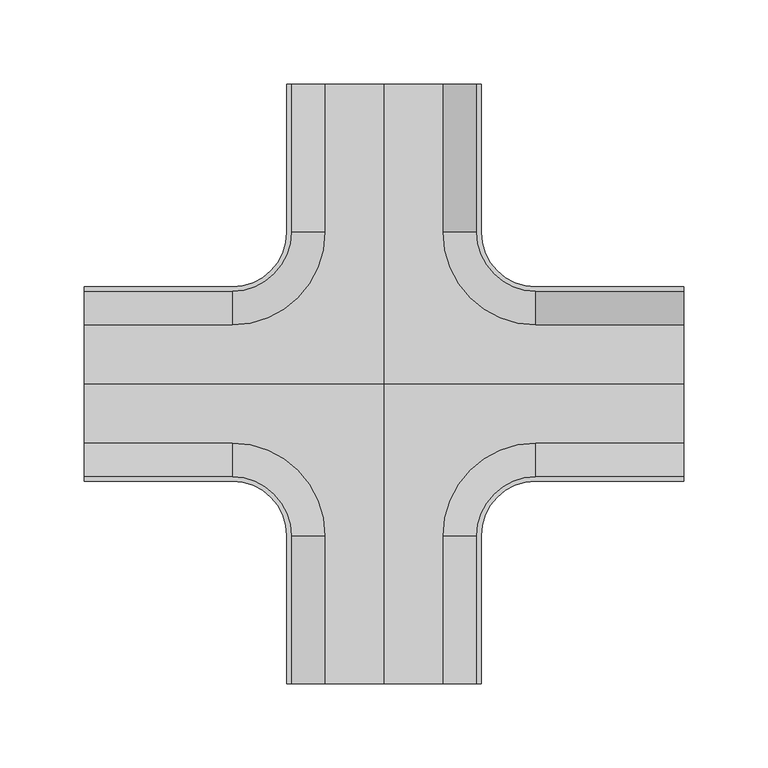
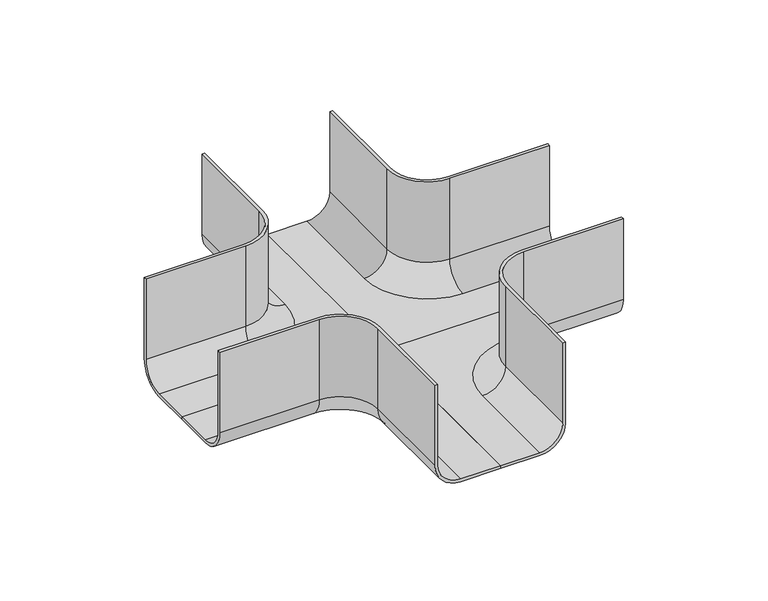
"""IFC4 building model written with IfcOpenShell, lengths in millimetres: cable carrier fitting geometry, CCT_Hyperline_FBTR-CRS_Ответвитель крестообразный пластиковый : Ответвитель крестообразный пластиковый."""

from ifc_helpers import new_model, si_unit, point, frame, origin, place, context, project, spatial, polyline, circle_curve, ellipse_curve, trimmed, source, transform, mapped, element, save
from ifc_brep_helpers import plane_surface, cylinder_surface, revolved_surface, advanced_brep


def cable_carrier_fitting_b2320f43(model_context):
    return source(origin(), model_context, "Body", "AdvancedBrep", [
        advanced_brep(
        [(-177.5, -57.54, -25.0), (-177.5, -57.54, 50.0), (-177.5, -55.0, 50.0), (-177.5, -55.0, -25.0), (-177.5, -35.0, -45.0), (-177.5, 0.0, -45.0), (-177.5, 0.0, -47.54), (-177.5, -35.0, -47.54), (-90.0, -35.0, -47.54), (-90.0, -57.54, -25.0), (-90.0, -55.0, -25.0), (-90.0, -35.0, -45.0), (-90.0, -55.0, 50.0), (-90.0, -57.54, 50.0), (-57.54, -90.0, 50.0), (-57.54, -177.5, 50.0), (-55.0, -177.5, 50.0), (-55.0, -90.0, 50.0), (-35.0, -90.0, -47.54), (-57.54, -90.0, -25.0), (-55.0, -90.0, -25.0), (-35.0, -90.0, -45.0), (0.0, -177.5, -47.54), (0.0, -177.5, -45.0), (-35.0, -177.5, -45.0), (-55.0, -177.5, -25.0), (-57.54, -177.5, -25.0), (-35.0, -177.5, -47.54), (0.0, 0.0, -45.0), (0.0, 0.0, -47.54)],
        [
            (0, 1),
            (1, 2),
            (2, 3),
            (3, 4, circle_curve(frame((-177.5, -35.0, -25.0), z_axis=(1.0, 0.0, 0.0), x_axis=(0.0, -1.0, 0.0)), 20.0)),
            (4, 5),
            (5, 6),
            (6, 7),
            (7, 0, circle_curve(frame((-177.5, -35.0, -25.0), z_axis=(-1.0, 0.0, 0.0), x_axis=(0.0, -1.0, 0.0)), 22.54)),
            (7, 8),
            (8, 9, circle_curve(frame((-90.0, -35.0, -25.0), z_axis=(-1.0, 0.0, 0.0), x_axis=(0.0, -1.0, 0.0)), 22.54)),
            (9, 0),
            (3, 10),
            (10, 11, circle_curve(frame((-90.0, -35.0, -25.0), z_axis=(1.0, 0.0, 0.0), x_axis=(0.0, -1.0, 0.0)), 20.0)),
            (11, 4),
            (2, 12),
            (12, 10),
            (1, 13),
            (13, 14, circle_curve(frame((-90.0, -90.0, 50.0), z_axis=(0.0, 0.0, -1.0), x_axis=(0.0, 1.0, 0.0)), 32.46)),
            (14, 15),
            (15, 16),
            (16, 17),
            (17, 12, circle_curve(frame((-90.0, -90.0, 50.0), z_axis=(0.0, 0.0, 1.0), x_axis=(0.0, 1.0, 0.0)), 35.0)),
            (9, 13),
            (8, 18, circle_curve(frame((-90.0, -90.0, -47.54), z_axis=(0.0, 0.0, -1.0), x_axis=(0.0, 1.0, 0.0)), 55.0)),
            (18, 19, circle_curve(frame((-35.0, -90.0, -25.0), z_axis=(0.0, 1.0, 0.0), x_axis=(-1.0, 0.0, 0.0)), 22.54)),
            (19, 9, circle_curve(frame((-90.0, -90.0, -25.0), z_axis=(0.0, 0.0, 1.0), x_axis=(0.0, 1.0, 0.0)), 32.46)),
            (10, 20, circle_curve(frame((-90.0, -90.0, -25.0), z_axis=(0.0, 0.0, -1.0), x_axis=(0.0, 1.0, 0.0)), 35.0)),
            (20, 21, circle_curve(frame((-35.0, -90.0, -25.0), z_axis=(0.0, -1.0, 0.0), x_axis=(-1.0, 0.0, 0.0)), 20.0)),
            (21, 11, circle_curve(frame((-90.0, -90.0, -45.0), z_axis=(0.0, 0.0, 1.0), x_axis=(0.0, 1.0, 0.0)), 55.0)),
            (17, 20),
            (19, 14),
            (22, 23),
            (23, 24),
            (24, 25, circle_curve(frame((-35.0, -177.5, -25.0), z_axis=(0.0, 1.0, 0.0), x_axis=(-1.0, 0.0, 0.0)), 20.0)),
            (25, 16),
            (15, 26),
            (26, 27, circle_curve(frame((-35.0, -177.5, -25.0), z_axis=(0.0, -1.0, 0.0), x_axis=(-1.0, 0.0, 0.0)), 22.54)),
            (27, 22),
            (26, 19),
            (18, 27),
            (20, 25),
            (24, 21),
            (23, 28),
            (28, 5),
            (6, 29),
            (29, 22),
            (28, 29),
        ],
        [
            plane_surface(frame((-177.5, -55.0, 0.0), z_axis=(-1.0, 0.0, 0.0), x_axis=(0.0, 0.0, 1.0))),
            cylinder_surface(frame((-177.5, -35.0, -25.0), z_axis=(-1.0, 0.0, 0.0), x_axis=(0.0, -1.0, 0.0)), 22.54),
            revolved_surface(polyline([(-90.0, -55.0, -25.0), (-177.5, -55.0, -25.0)]), (-177.5, -35.0, -25.0), (1.0, 0.0, 0.0)),
            plane_surface(frame((-177.5, -55.0, -25.0), z_axis=(0.0, 1.0, 0.0), x_axis=(1.0, 0.0, 0.0))),
            plane_surface(frame((-177.5, -55.0, 50.0), z_axis=(0.0, 0.0, 1.0), x_axis=(1.0, 0.0, 0.0))),
            plane_surface(frame((-177.5, -57.54, 50.0), z_axis=(0.0, -1.0, 0.0), x_axis=(1.0, 0.0, 0.0))),
            revolved_surface(trimmed(ellipse_curve(frame((-90.0, -35.0, -25.0), z_axis=(1.0, 0.0, 0.0), x_axis=(0.0, -1.0, 0.0)), 22.54, 22.54), [point((-90.0, -57.54, -25.0))], [point((-90.0, -35.0, -47.54))], True, "CARTESIAN"), (-90.0, -90.0, 0.0), (0.0, 0.0, 1.0)),
            revolved_surface(trimmed(ellipse_curve(frame((-90.0, -35.0, -25.0), z_axis=(-1.0, 0.0, 0.0), x_axis=(0.0, -1.0, 0.0)), 20.0, 20.0), [point((-90.0, -35.0, -45.0))], [point((-90.0, -55.0, -25.0))], True, "CARTESIAN"), (-90.0, -90.0, 0.0), (0.0, 0.0, 1.0)),
            cylinder_surface(frame((-90.0, -90.0, 0.0), z_axis=(0.0, 0.0, 1.0), x_axis=(0.0, 1.0, 0.0)), 35.0),
            revolved_surface(polyline([(-90.0, -57.54, 50.0), (-90.0, -57.54, -25.0)]), (-90.0, -90.0, 0.0), (0.0, 0.0, 1.0)),
            plane_surface(frame((-55.0, -177.5, 0.0), z_axis=(0.0, -1.0, 0.0), x_axis=(0.0, 0.0, 1.0))),
            cylinder_surface(frame((-35.0, -90.0, -25.0), z_axis=(0.0, 1.0, 0.0), x_axis=(-1.0, 0.0, 0.0)), 22.54),
            revolved_surface(polyline([(-55.0, -177.5, -25.0), (-55.0, -90.0, -25.0)]), (-35.0, -90.0, -25.0), (0.0, -1.0, 0.0)),
            plane_surface(frame((-55.0, -90.0, -25.0), z_axis=(1.0, 0.0, 0.0), x_axis=(0.0, -1.0, 0.0))),
            plane_surface(frame((-57.54, -90.0, 50.0), z_axis=(-1.0, 0.0, 0.0), x_axis=(0.0, -1.0, 0.0))),
            plane_surface(frame((0.0, -90.0, -45.0), z_axis=(0.0, 0.0, 1.0), x_axis=(0.0, 1.0, 0.0))),
            plane_surface(frame((0.0, -90.0, -47.54), z_axis=(0.0, 0.0, -1.0), x_axis=(0.0, -1.0, 0.0))),
            plane_surface(frame((-90.0, 0.0, -45.0), z_axis=(0.0, 1.0, 0.0), x_axis=(0.0, 0.0, -1.0))),
            plane_surface(frame((0.0, 0.0, -45.0), z_axis=(1.0, 0.0, 0.0), x_axis=(0.0, 0.0, -1.0))),
        ],
        [
            (0, [[1, 2, 3, 4, 5, 6, 7, 8]]),
            (1, [[9, 10, 11, -8]]),
            (2, [[12, 13, 14, -4]]),
            (3, [[15, 16, -12, -3]]),
            (4, [[17, 18, 19, 20, 21, 22, -15, -2]]),
            (5, [[-11, 23, -17, -1]]),
            (6, [[24, 25, 26, -10]]),
            (7, [[-13, 27, 28, 29]]),
            (8, [[-22, 30, -27, -16]]),
            (9, [[-23, -26, 31, -18]]),
            (10, [[32, 33, 34, 35, -20, 36, 37, 38]]),
            (11, [[-37, 39, -25, 40]]),
            (12, [[-28, 41, -34, 42]]),
            (13, [[-35, -41, -30, -21]]),
            (14, [[-31, -39, -36, -19]]),
            (15, [[43, 44, -5, -14, -29, -42, -33]]),
            (16, [[45, 46, -38, -40, -24, -9, -7]]),
            (17, [[47, -45, -6, -44]]),
            (18, [[-32, -46, -47, -43]]),
        ],
    ),
        advanced_brep(
        [(177.5, -57.54, -25.0), (177.5, -35.0, -47.54), (177.5, 0.0, -47.54), (177.5, 0.0, -45.0), (177.5, -35.0, -45.0), (177.5, -55.0, -25.0), (177.5, -55.0, 50.0), (177.5, -57.54, 50.0), (90.0, -57.54, -25.0), (90.0, -35.0, -47.54), (90.0, -35.0, -45.0), (90.0, -55.0, -25.0), (90.0, -55.0, 50.0), (55.0, -90.0, 50.0), (55.0, -177.5, 50.0), (57.54, -177.5, 50.0), (57.54, -90.0, 50.0), (90.0, -57.54, 50.0), (57.54, -90.0, -25.0), (35.0, -90.0, -47.54), (35.0, -90.0, -45.0), (55.0, -90.0, -25.0), (0.0, -177.5, -47.54), (35.0, -177.5, -47.54), (57.54, -177.5, -25.0), (55.0, -177.5, -25.0), (35.0, -177.5, -45.0), (0.0, -177.5, -45.0), (0.0, 0.0, -45.0), (0.0, 0.0, -47.54)],
        [
            (0, 1, circle_curve(frame((177.5, -35.0, -25.0), z_axis=(1.0, 0.0, 0.0), x_axis=(0.0, -1.0, 0.0)), 22.54)),
            (1, 2),
            (2, 3),
            (3, 4),
            (4, 5, circle_curve(frame((177.5, -35.0, -25.0), z_axis=(-1.0, 0.0, 0.0), x_axis=(0.0, -1.0, 0.0)), 20.0)),
            (5, 6),
            (6, 7),
            (7, 0),
            (0, 8),
            (8, 9, circle_curve(frame((90.0, -35.0, -25.0), z_axis=(1.0, 0.0, 0.0), x_axis=(0.0, -1.0, 0.0)), 22.54)),
            (9, 1),
            (4, 10),
            (10, 11, circle_curve(frame((90.0, -35.0, -25.0), z_axis=(-1.0, 0.0, 0.0), x_axis=(0.0, -1.0, 0.0)), 20.0)),
            (11, 5),
            (11, 12),
            (12, 6),
            (12, 13, circle_curve(frame((90.0, -90.0, 50.0), z_axis=(0.0, 0.0, 1.0), x_axis=(0.0, 1.0, 0.0)), 35.0)),
            (13, 14),
            (14, 15),
            (15, 16),
            (16, 17, circle_curve(frame((90.0, -90.0, 50.0), z_axis=(0.0, 0.0, -1.0), x_axis=(0.0, 1.0, 0.0)), 32.46)),
            (17, 7),
            (17, 8),
            (8, 18, circle_curve(frame((90.0, -90.0, -25.0), z_axis=(0.0, 0.0, 1.0), x_axis=(0.0, 1.0, 0.0)), 32.46)),
            (18, 19, circle_curve(frame((35.0, -90.0, -25.0), z_axis=(0.0, 1.0, 0.0), x_axis=(1.0, 0.0, 0.0)), 22.54)),
            (19, 9, circle_curve(frame((90.0, -90.0, -47.54), z_axis=(0.0, 0.0, -1.0), x_axis=(0.0, 1.0, 0.0)), 55.0)),
            (10, 20, circle_curve(frame((90.0, -90.0, -45.0), z_axis=(0.0, 0.0, 1.0), x_axis=(0.0, 1.0, 0.0)), 55.0)),
            (20, 21, circle_curve(frame((35.0, -90.0, -25.0), z_axis=(0.0, -1.0, 0.0), x_axis=(1.0, 0.0, 0.0)), 20.0)),
            (21, 11, circle_curve(frame((90.0, -90.0, -25.0), z_axis=(0.0, 0.0, -1.0), x_axis=(0.0, 1.0, 0.0)), 35.0)),
            (21, 13),
            (16, 18),
            (22, 23),
            (23, 24, circle_curve(frame((35.0, -177.5, -25.0), z_axis=(0.0, -1.0, 0.0), x_axis=(1.0, 0.0, 0.0)), 22.54)),
            (24, 15),
            (14, 25),
            (25, 26, circle_curve(frame((35.0, -177.5, -25.0), z_axis=(0.0, 1.0, 0.0), x_axis=(1.0, 0.0, 0.0)), 20.0)),
            (26, 27),
            (27, 22),
            (23, 19),
            (18, 24),
            (20, 26),
            (25, 21),
            (3, 28),
            (28, 27),
            (22, 29),
            (29, 2),
            (29, 28),
        ],
        [
            plane_surface(frame((177.5, -55.0, 0.0), z_axis=(1.0, 0.0, 0.0), x_axis=(0.0, 0.0, 1.0))),
            cylinder_surface(frame((177.5, -35.0, -25.0), z_axis=(1.0, 0.0, 0.0), x_axis=(0.0, -1.0, 0.0)), 22.54),
            revolved_surface(polyline([(90.0, -55.0, -25.0), (177.5, -55.0, -25.0)]), (177.5, -35.0, -25.0), (-1.0, 0.0, 0.0)),
            plane_surface(frame((177.5, -55.0, -25.0), z_axis=(0.0, 1.0, 0.0), x_axis=(-1.0, 0.0, 0.0))),
            plane_surface(frame((177.5, -55.0, 50.0), z_axis=(0.0, 0.0, 1.0), x_axis=(-1.0, 0.0, 0.0))),
            plane_surface(frame((177.5, -57.54, 50.0), z_axis=(0.0, -1.0, 0.0), x_axis=(-1.0, 0.0, 0.0))),
            revolved_surface(trimmed(ellipse_curve(frame((90.0, -35.0, -25.0), z_axis=(1.0, 0.0, 0.0), x_axis=(0.0, -1.0, 0.0)), 22.54, 22.54), [point((90.0, -57.54, -25.0))], [point((90.0, -35.0, -47.54))], True, "CARTESIAN"), (90.0, -90.0, 0.0), (0.0, 0.0, 1.0)),
            revolved_surface(trimmed(ellipse_curve(frame((90.0, -35.0, -25.0), z_axis=(-1.0, 0.0, 0.0), x_axis=(0.0, -1.0, 0.0)), 20.0, 20.0), [point((90.0, -35.0, -45.0))], [point((90.0, -55.0, -25.0))], True, "CARTESIAN"), (90.0, -90.0, 0.0), (0.0, 0.0, 1.0)),
            cylinder_surface(frame((90.0, -90.0, 0.0), z_axis=(0.0, 0.0, 1.0), x_axis=(0.0, 1.0, 0.0)), 35.0),
            revolved_surface(polyline([(90.0, -57.54, 50.0), (90.0, -57.54, -25.0)]), (90.0, -90.0, 0.0), (0.0, 0.0, 1.0)),
            plane_surface(frame((55.0, -177.5, 0.0), z_axis=(0.0, -1.0, 0.0), x_axis=(0.0, 0.0, 1.0))),
            cylinder_surface(frame((35.0, -90.0, -25.0), z_axis=(0.0, 1.0, 0.0), x_axis=(1.0, 0.0, 0.0)), 22.54),
            revolved_surface(polyline([(55.0, -177.5, -25.0), (55.0, -90.0, -25.0)]), (35.0, -90.0, -25.0), (0.0, -1.0, 0.0)),
            plane_surface(frame((55.0, -90.0, -25.0), z_axis=(-1.0, 0.0, 0.0), x_axis=(0.0, -1.0, 0.0))),
            plane_surface(frame((57.54, -90.0, 50.0), z_axis=(1.0, 0.0, 0.0), x_axis=(0.0, -1.0, 0.0))),
            plane_surface(frame((0.0, -90.0, -45.0), z_axis=(0.0, 0.0, 1.0), x_axis=(0.0, 1.0, 0.0))),
            plane_surface(frame((0.0, -90.0, -47.54), z_axis=(0.0, 0.0, -1.0), x_axis=(0.0, -1.0, 0.0))),
            plane_surface(frame((90.0, 0.0, -45.0), z_axis=(0.0, 1.0, 0.0), x_axis=(0.0, 0.0, -1.0))),
            plane_surface(frame((0.0, 0.0, -45.0), z_axis=(-1.0, 0.0, 0.0), x_axis=(0.0, 0.0, -1.0))),
        ],
        [
            (0, [[1, 2, 3, 4, 5, 6, 7, 8]]),
            (1, [[-1, 9, 10, 11]]),
            (2, [[-5, 12, 13, 14]]),
            (3, [[-6, -14, 15, 16]]),
            (4, [[-7, -16, 17, 18, 19, 20, 21, 22]]),
            (5, [[-8, -22, 23, -9]]),
            (6, [[-10, 24, 25, 26]]),
            (7, [[27, 28, 29, -13]]),
            (8, [[-15, -29, 30, -17]]),
            (9, [[-21, 31, -24, -23]]),
            (10, [[32, 33, 34, -19, 35, 36, 37, 38]]),
            (11, [[39, -25, 40, -33]]),
            (12, [[41, -36, 42, -28]]),
            (13, [[-18, -30, -42, -35]]),
            (14, [[-20, -34, -40, -31]]),
            (15, [[-37, -41, -27, -12, -4, 43, 44]]),
            (16, [[-2, -11, -26, -39, -32, 45, 46]]),
            (17, [[-43, -3, -46, 47]]),
            (18, [[-44, -47, -45, -38]]),
        ],
    ),
        advanced_brep(
        [(-177.5, 57.54, -25.0), (-177.5, 35.0, -47.54), (-177.5, 0.0, -47.54), (-177.5, 0.0, -45.0), (-177.5, 35.0, -45.0), (-177.5, 55.0, -25.0), (-177.5, 55.0, 50.0), (-177.5, 57.54, 50.0), (-90.0, 57.54, -25.0), (-90.0, 35.0, -47.54), (-90.0, 35.0, -45.0), (-90.0, 55.0, -25.0), (-90.0, 55.0, 50.0), (-55.0, 90.0, 50.0), (-55.0, 177.5, 50.0), (-57.54, 177.5, 50.0), (-57.54, 90.0, 50.0), (-90.0, 57.54, 50.0), (-57.54, 90.0, -25.0), (-35.0, 90.0, -47.54), (-35.0, 90.0, -45.0), (-55.0, 90.0, -25.0), (0.0, 177.5, -47.54), (-35.0, 177.5, -47.54), (-57.54, 177.5, -25.0), (-55.0, 177.5, -25.0), (-35.0, 177.5, -45.0), (0.0, 177.5, -45.0), (0.0, 0.0, -45.0), (0.0, 0.0, -47.54)],
        [
            (0, 1, circle_curve(frame((-177.5, 35.0, -25.0), z_axis=(-1.0, 0.0, 0.0), x_axis=(0.0, 1.0, 0.0)), 22.54)),
            (1, 2),
            (2, 3),
            (3, 4),
            (4, 5, circle_curve(frame((-177.5, 35.0, -25.0), z_axis=(1.0, 0.0, 0.0), x_axis=(0.0, 1.0, 0.0)), 20.0)),
            (5, 6),
            (6, 7),
            (7, 0),
            (0, 8),
            (8, 9, circle_curve(frame((-90.0, 35.0, -25.0), z_axis=(-1.0, 0.0, 0.0), x_axis=(0.0, 1.0, 0.0)), 22.54)),
            (9, 1),
            (4, 10),
            (10, 11, circle_curve(frame((-90.0, 35.0, -25.0), z_axis=(1.0, 0.0, 0.0), x_axis=(0.0, 1.0, 0.0)), 20.0)),
            (11, 5),
            (11, 12),
            (12, 6),
            (12, 13, circle_curve(frame((-90.0, 90.0, 50.0), z_axis=(0.0, 0.0, 1.0), x_axis=(0.0, -1.0, 0.0)), 35.0)),
            (13, 14),
            (14, 15),
            (15, 16),
            (16, 17, circle_curve(frame((-90.0, 90.0, 50.0), z_axis=(0.0, 0.0, -1.0), x_axis=(0.0, -1.0, 0.0)), 32.46)),
            (17, 7),
            (17, 8),
            (8, 18, circle_curve(frame((-90.0, 90.0, -25.0), z_axis=(0.0, 0.0, 1.0), x_axis=(0.0, -1.0, 0.0)), 32.46)),
            (18, 19, circle_curve(frame((-35.0, 90.0, -25.0), z_axis=(0.0, -1.0, 0.0), x_axis=(-1.0, 0.0, 0.0)), 22.54)),
            (19, 9, circle_curve(frame((-90.0, 90.0, -47.54), z_axis=(0.0, 0.0, -1.0), x_axis=(0.0, -1.0, 0.0)), 55.0)),
            (10, 20, circle_curve(frame((-90.0, 90.0, -45.0), z_axis=(0.0, 0.0, 1.0), x_axis=(0.0, -1.0, 0.0)), 55.0)),
            (20, 21, circle_curve(frame((-35.0, 90.0, -25.0), z_axis=(0.0, 1.0, 0.0), x_axis=(-1.0, 0.0, 0.0)), 20.0)),
            (21, 11, circle_curve(frame((-90.0, 90.0, -25.0), z_axis=(0.0, 0.0, -1.0), x_axis=(0.0, -1.0, 0.0)), 35.0)),
            (21, 13),
            (16, 18),
            (22, 23),
            (23, 24, circle_curve(frame((-35.0, 177.5, -25.0), z_axis=(0.0, 1.0, 0.0), x_axis=(-1.0, 0.0, 0.0)), 22.54)),
            (24, 15),
            (14, 25),
            (25, 26, circle_curve(frame((-35.0, 177.5, -25.0), z_axis=(0.0, -1.0, 0.0), x_axis=(-1.0, 0.0, 0.0)), 20.0)),
            (26, 27),
            (27, 22),
            (23, 19),
            (18, 24),
            (20, 26),
            (25, 21),
            (3, 28),
            (28, 27),
            (22, 29),
            (29, 2),
            (29, 28),
        ],
        [
            plane_surface(frame((-177.5, 55.0, 0.0), z_axis=(-1.0, 0.0, 0.0), x_axis=(0.0, 0.0, 1.0))),
            cylinder_surface(frame((-177.5, 35.0, -25.0), z_axis=(-1.0, 0.0, 0.0), x_axis=(0.0, 1.0, 0.0)), 22.54),
            revolved_surface(polyline([(-90.0, 55.0, -25.0), (-177.5, 55.0, -25.0)]), (-177.5, 35.0, -25.0), (1.0, 0.0, 0.0)),
            plane_surface(frame((-177.5, 55.0, -25.0), z_axis=(0.0, -1.0, 0.0), x_axis=(1.0, 0.0, 0.0))),
            plane_surface(frame((-177.5, 55.0, 50.0), z_axis=(0.0, 0.0, 1.0), x_axis=(1.0, 0.0, 0.0))),
            plane_surface(frame((-177.5, 57.54, 50.0), z_axis=(0.0, 1.0, 0.0), x_axis=(1.0, 0.0, 0.0))),
            revolved_surface(trimmed(ellipse_curve(frame((-90.0, 35.0, -25.0), z_axis=(-1.0, 0.0, 0.0), x_axis=(0.0, 1.0, 0.0)), 22.54, 22.54), [point((-90.0, 57.54, -25.0))], [point((-90.0, 35.0, -47.54))], True, "CARTESIAN"), (-90.0, 90.0, 0.0), (0.0, 0.0, 1.0)),
            revolved_surface(trimmed(ellipse_curve(frame((-90.0, 35.0, -25.0), z_axis=(1.0, 0.0, 0.0), x_axis=(0.0, 1.0, 0.0)), 20.0, 20.0), [point((-90.0, 35.0, -45.0))], [point((-90.0, 55.0, -25.0))], True, "CARTESIAN"), (-90.0, 90.0, 0.0), (0.0, 0.0, 1.0)),
            cylinder_surface(frame((-90.0, 90.0, 0.0), z_axis=(0.0, 0.0, 1.0), x_axis=(0.0, -1.0, 0.0)), 35.0),
            revolved_surface(polyline([(-90.0, 57.54, 50.0), (-90.0, 57.54, -25.0)]), (-90.0, 90.0, 0.0), (0.0, 0.0, 1.0)),
            plane_surface(frame((-55.0, 177.5, 0.0), z_axis=(0.0, 1.0, 0.0), x_axis=(0.0, 0.0, 1.0))),
            cylinder_surface(frame((-35.0, 90.0, -25.0), z_axis=(0.0, -1.0, 0.0), x_axis=(-1.0, 0.0, 0.0)), 22.54),
            revolved_surface(polyline([(-55.0, 177.5, -25.0), (-55.0, 90.0, -25.0)]), (-35.0, 90.0, -25.0), (0.0, 1.0, 0.0)),
            plane_surface(frame((-55.0, 90.0, -25.0), z_axis=(1.0, 0.0, 0.0), x_axis=(0.0, 1.0, 0.0))),
            plane_surface(frame((-57.54, 90.0, 50.0), z_axis=(-1.0, 0.0, 0.0), x_axis=(0.0, 1.0, 0.0))),
            plane_surface(frame((0.0, 90.0, -45.0), z_axis=(0.0, 0.0, 1.0), x_axis=(0.0, -1.0, 0.0))),
            plane_surface(frame((0.0, 90.0, -47.54), z_axis=(0.0, 0.0, -1.0), x_axis=(0.0, 1.0, 0.0))),
            plane_surface(frame((-90.0, 0.0, -45.0), z_axis=(0.0, -1.0, 0.0), x_axis=(0.0, 0.0, -1.0))),
            plane_surface(frame((0.0, 0.0, -45.0), z_axis=(1.0, 0.0, 0.0), x_axis=(0.0, 0.0, -1.0))),
        ],
        [
            (0, [[1, 2, 3, 4, 5, 6, 7, 8]]),
            (1, [[-1, 9, 10, 11]]),
            (2, [[-5, 12, 13, 14]]),
            (3, [[-6, -14, 15, 16]]),
            (4, [[-7, -16, 17, 18, 19, 20, 21, 22]]),
            (5, [[-8, -22, 23, -9]]),
            (6, [[-10, 24, 25, 26]]),
            (7, [[27, 28, 29, -13]]),
            (8, [[-15, -29, 30, -17]]),
            (9, [[-21, 31, -24, -23]]),
            (10, [[32, 33, 34, -19, 35, 36, 37, 38]]),
            (11, [[39, -25, 40, -33]]),
            (12, [[41, -36, 42, -28]]),
            (13, [[-18, -30, -42, -35]]),
            (14, [[-20, -34, -40, -31]]),
            (15, [[-37, -41, -27, -12, -4, 43, 44]]),
            (16, [[-2, -11, -26, -39, -32, 45, 46]]),
            (17, [[-43, -3, -46, 47]]),
            (18, [[-44, -47, -45, -38]]),
        ],
    ),
        advanced_brep(
        [(177.5, 57.54, -25.0), (177.5, 57.54, 50.0), (177.5, 55.0, 50.0), (177.5, 55.0, -25.0), (177.5, 35.0, -45.0), (177.5, 0.0, -45.0), (177.5, 0.0, -47.54), (177.5, 35.0, -47.54), (90.0, 35.0, -47.54), (90.0, 57.54, -25.0), (90.0, 55.0, -25.0), (90.0, 35.0, -45.0), (90.0, 55.0, 50.0), (90.0, 57.54, 50.0), (57.54, 90.0, 50.0), (57.54, 177.5, 50.0), (55.0, 177.5, 50.0), (55.0, 90.0, 50.0), (35.0, 90.0, -47.54), (57.54, 90.0, -25.0), (55.0, 90.0, -25.0), (35.0, 90.0, -45.0), (0.0, 177.5, -47.54), (0.0, 177.5, -45.0), (35.0, 177.5, -45.0), (55.0, 177.5, -25.0), (57.54, 177.5, -25.0), (35.0, 177.5, -47.54), (0.0, 0.0, -45.0), (0.0, 0.0, -47.54)],
        [
            (0, 1),
            (1, 2),
            (2, 3),
            (3, 4, circle_curve(frame((177.5, 35.0, -25.0), z_axis=(-1.0, 0.0, 0.0), x_axis=(0.0, 1.0, 0.0)), 20.0)),
            (4, 5),
            (5, 6),
            (6, 7),
            (7, 0, circle_curve(frame((177.5, 35.0, -25.0), z_axis=(1.0, 0.0, 0.0), x_axis=(0.0, 1.0, 0.0)), 22.54)),
            (7, 8),
            (8, 9, circle_curve(frame((90.0, 35.0, -25.0), z_axis=(1.0, 0.0, 0.0), x_axis=(0.0, 1.0, 0.0)), 22.54)),
            (9, 0),
            (3, 10),
            (10, 11, circle_curve(frame((90.0, 35.0, -25.0), z_axis=(-1.0, 0.0, 0.0), x_axis=(0.0, 1.0, 0.0)), 20.0)),
            (11, 4),
            (2, 12),
            (12, 10),
            (1, 13),
            (13, 14, circle_curve(frame((90.0, 90.0, 50.0), z_axis=(0.0, 0.0, -1.0), x_axis=(0.0, -1.0, 0.0)), 32.46)),
            (14, 15),
            (15, 16),
            (16, 17),
            (17, 12, circle_curve(frame((90.0, 90.0, 50.0), z_axis=(0.0, 0.0, 1.0), x_axis=(0.0, -1.0, 0.0)), 35.0)),
            (9, 13),
            (8, 18, circle_curve(frame((90.0, 90.0, -47.54), z_axis=(0.0, 0.0, -1.0), x_axis=(0.0, -1.0, 0.0)), 55.0)),
            (18, 19, circle_curve(frame((35.0, 90.0, -25.0), z_axis=(0.0, -1.0, 0.0), x_axis=(1.0, 0.0, 0.0)), 22.54)),
            (19, 9, circle_curve(frame((90.0, 90.0, -25.0), z_axis=(0.0, 0.0, 1.0), x_axis=(0.0, -1.0, 0.0)), 32.46)),
            (10, 20, circle_curve(frame((90.0, 90.0, -25.0), z_axis=(0.0, 0.0, -1.0), x_axis=(0.0, -1.0, 0.0)), 35.0)),
            (20, 21, circle_curve(frame((35.0, 90.0, -25.0), z_axis=(0.0, 1.0, 0.0), x_axis=(1.0, 0.0, 0.0)), 20.0)),
            (21, 11, circle_curve(frame((90.0, 90.0, -45.0), z_axis=(0.0, 0.0, 1.0), x_axis=(0.0, -1.0, 0.0)), 55.0)),
            (17, 20),
            (19, 14),
            (22, 23),
            (23, 24),
            (24, 25, circle_curve(frame((35.0, 177.5, -25.0), z_axis=(0.0, -1.0, 0.0), x_axis=(1.0, 0.0, 0.0)), 20.0)),
            (25, 16),
            (15, 26),
            (26, 27, circle_curve(frame((35.0, 177.5, -25.0), z_axis=(0.0, 1.0, 0.0), x_axis=(1.0, 0.0, 0.0)), 22.54)),
            (27, 22),
            (26, 19),
            (18, 27),
            (20, 25),
            (24, 21),
            (23, 28),
            (28, 5),
            (6, 29),
            (29, 22),
            (28, 29),
        ],
        [
            plane_surface(frame((177.5, 55.0, 0.0), z_axis=(1.0, 0.0, 0.0), x_axis=(0.0, 0.0, 1.0))),
            cylinder_surface(frame((177.5, 35.0, -25.0), z_axis=(1.0, 0.0, 0.0), x_axis=(0.0, 1.0, 0.0)), 22.54),
            revolved_surface(polyline([(90.0, 55.0, -25.0), (177.5, 55.0, -25.0)]), (177.5, 35.0, -25.0), (-1.0, 0.0, 0.0)),
            plane_surface(frame((177.5, 55.0, -25.0), z_axis=(0.0, -1.0, 0.0), x_axis=(-1.0, 0.0, 0.0))),
            plane_surface(frame((177.5, 55.0, 50.0), z_axis=(0.0, 0.0, 1.0), x_axis=(-1.0, 0.0, 0.0))),
            plane_surface(frame((177.5, 57.54, 50.0), z_axis=(0.0, 1.0, 0.0), x_axis=(-1.0, 0.0, 0.0))),
            revolved_surface(trimmed(ellipse_curve(frame((90.0, 35.0, -25.0), z_axis=(-1.0, 0.0, 0.0), x_axis=(0.0, 1.0, 0.0)), 22.54, 22.54), [point((90.0, 57.54, -25.0))], [point((90.0, 35.0, -47.54))], True, "CARTESIAN"), (90.0, 90.0, 0.0), (0.0, 0.0, 1.0)),
            revolved_surface(trimmed(ellipse_curve(frame((90.0, 35.0, -25.0), z_axis=(1.0, 0.0, 0.0), x_axis=(0.0, 1.0, 0.0)), 20.0, 20.0), [point((90.0, 35.0, -45.0))], [point((90.0, 55.0, -25.0))], True, "CARTESIAN"), (90.0, 90.0, 0.0), (0.0, 0.0, 1.0)),
            cylinder_surface(frame((90.0, 90.0, 0.0), z_axis=(0.0, 0.0, 1.0), x_axis=(0.0, -1.0, 0.0)), 35.0),
            revolved_surface(polyline([(90.0, 57.54, 50.0), (90.0, 57.54, -25.0)]), (90.0, 90.0, 0.0), (0.0, 0.0, 1.0)),
            plane_surface(frame((55.0, 177.5, 0.0), z_axis=(0.0, 1.0, 0.0), x_axis=(0.0, 0.0, 1.0))),
            cylinder_surface(frame((35.0, 90.0, -25.0), z_axis=(0.0, -1.0, 0.0), x_axis=(1.0, 0.0, 0.0)), 22.54),
            revolved_surface(polyline([(55.0, 177.5, -25.0), (55.0, 90.0, -25.0)]), (35.0, 90.0, -25.0), (0.0, 1.0, 0.0)),
            plane_surface(frame((55.0, 90.0, -25.0), z_axis=(-1.0, 0.0, 0.0), x_axis=(0.0, 1.0, 0.0))),
            plane_surface(frame((57.54, 90.0, 50.0), z_axis=(1.0, 0.0, 0.0), x_axis=(0.0, 1.0, 0.0))),
            plane_surface(frame((0.0, 90.0, -45.0), z_axis=(0.0, 0.0, 1.0), x_axis=(0.0, -1.0, 0.0))),
            plane_surface(frame((0.0, 90.0, -47.54), z_axis=(0.0, 0.0, -1.0), x_axis=(0.0, 1.0, 0.0))),
            plane_surface(frame((90.0, 0.0, -45.0), z_axis=(0.0, -1.0, 0.0), x_axis=(0.0, 0.0, -1.0))),
            plane_surface(frame((0.0, 0.0, -45.0), z_axis=(-1.0, 0.0, 0.0), x_axis=(0.0, 0.0, -1.0))),
        ],
        [
            (0, [[1, 2, 3, 4, 5, 6, 7, 8]]),
            (1, [[9, 10, 11, -8]]),
            (2, [[12, 13, 14, -4]]),
            (3, [[15, 16, -12, -3]]),
            (4, [[17, 18, 19, 20, 21, 22, -15, -2]]),
            (5, [[-11, 23, -17, -1]]),
            (6, [[24, 25, 26, -10]]),
            (7, [[-13, 27, 28, 29]]),
            (8, [[-22, 30, -27, -16]]),
            (9, [[-23, -26, 31, -18]]),
            (10, [[32, 33, 34, 35, -20, 36, 37, 38]]),
            (11, [[-37, 39, -25, 40]]),
            (12, [[-28, 41, -34, 42]]),
            (13, [[-35, -41, -30, -21]]),
            (14, [[-31, -39, -36, -19]]),
            (15, [[43, 44, -5, -14, -29, -42, -33]]),
            (16, [[45, 46, -38, -40, -24, -9, -7]]),
            (17, [[47, -45, -6, -44]]),
            (18, [[-32, -46, -47, -43]]),
        ],
    ),
    ])


if __name__ == "__main__":
    model = new_model("IFC4")
    model_context = context("Model", 3, world=origin())
    ifc_project = project(units=[si_unit("LENGTHUNIT", "METRE", prefix="MILLI")], contexts=[model_context])
    site = spatial("IfcSite", under=ifc_project)
    building = spatial("IfcBuilding", under=site)
    placement = place(None, origin())
    cable_carrier_fitting_shape = cable_carrier_fitting_b2320f43(model_context)
    element("IfcCableCarrierFitting", 1, ObjectType="CCT_Hyperline_FBTR-CRS_Ответвитель крестообразный пластиковый : Ответвитель крестообразный пластиковый", at=placement, inside=building, context=model_context, shape_type="MappedRepresentation", body=[
        mapped(cable_carrier_fitting_shape, transform((0.0, 0.0, 0.0), x_axis=(1.0, 0.0, 0.0), y_axis=(0.0, 1.0, 0.0), z_axis=(0.0, 0.0, 1.0))),
    ])
    save(model, "model.ifc")
